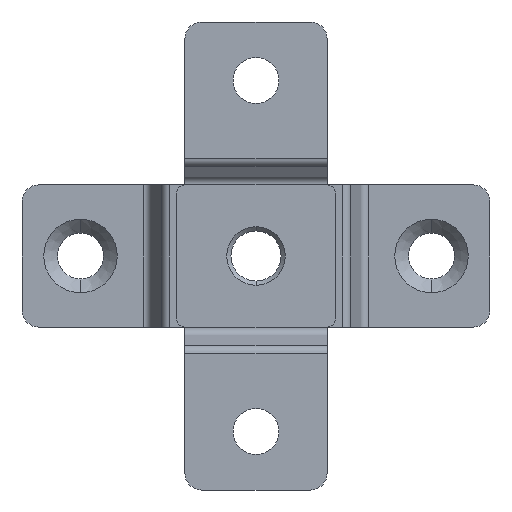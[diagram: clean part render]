
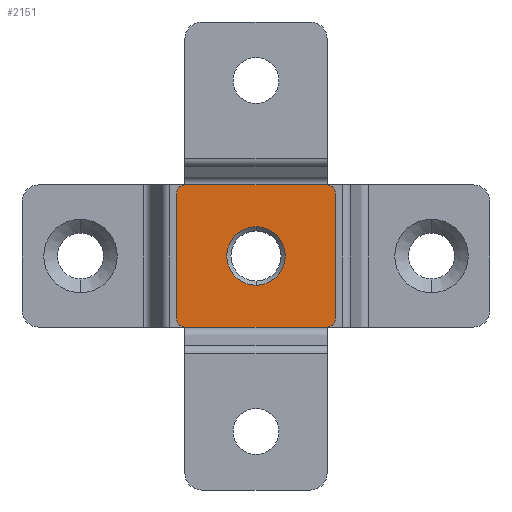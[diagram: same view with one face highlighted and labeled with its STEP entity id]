
A CAD part, front view. The second image highlights one B-rep face of the part: STEP entity #2151.
In plain terms, the highlighted planar face has unit normal (0, -1, 0) as drawn and (0, 1, 0) by its records, which use the part's own axes.
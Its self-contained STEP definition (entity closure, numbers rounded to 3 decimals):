
#43 = CARTESIAN_POINT ( 'NONE',  ( 0., 12., -3.5 ) ) ;
#53 = VECTOR ( 'NONE', #1442, 1000. ) ;
#136 = VERTEX_POINT ( 'NONE', #299 ) ;
#225 = CIRCLE ( 'NONE', #2777, 3.5 ) ;
#289 = LINE ( 'NONE', #2758, #2835 ) ;
#299 = CARTESIAN_POINT ( 'NONE',  ( 8.5, 12., -8.5 ) ) ;
#325 = DIRECTION ( 'NONE',  ( 0., 1., 0. ) ) ;
#332 = AXIS2_PLACEMENT_3D ( 'NONE', #2566, #3299, #2533 ) ;
#367 = EDGE_CURVE ( 'NONE', #1264, #1465, #2709, .T. ) ;
#578 = CIRCLE ( 'NONE', #1896, 1. ) ;
#591 = DIRECTION ( 'NONE',  ( 0., 0., 1. ) ) ;
#611 = EDGE_CURVE ( 'NONE', #1215, #136, #1778, .T. ) ;
#620 = PLANE ( 'NONE',  #3560 ) ;
#642 = VERTEX_POINT ( 'NONE', #2196 ) ;
#662 = EDGE_CURVE ( 'NONE', #642, #2515, #2304, .T. ) ;
#682 = ORIENTED_EDGE ( 'NONE', *, *, #1228, .T. ) ;
#826 = DIRECTION ( 'NONE',  ( 0., 0., 1. ) ) ;
#888 = CARTESIAN_POINT ( 'NONE',  ( 0., 12., 0. ) ) ;
#1033 = EDGE_LOOP ( 'NONE', ( #1742, #1321, #1789, #1059, #2740, #682, #1337, #3485 ) ) ;
#1042 = DIRECTION ( 'NONE',  ( 0., 0., 1. ) ) ;
#1045 = ORIENTED_EDGE ( 'NONE', *, *, #1516, .T. ) ;
#1048 = VERTEX_POINT ( 'NONE', #2460 ) ;
#1059 = ORIENTED_EDGE ( 'NONE', *, *, #611, .T. ) ;
#1215 = VERTEX_POINT ( 'NONE', #1720 ) ;
#1223 = CARTESIAN_POINT ( 'NONE',  ( 9.5, 12., 7.5 ) ) ;
#1228 = EDGE_CURVE ( 'NONE', #2973, #1048, #578, .T. ) ;
#1245 = CIRCLE ( 'NONE', #3499, 1. ) ;
#1264 = VERTEX_POINT ( 'NONE', #1820 ) ;
#1321 = ORIENTED_EDGE ( 'NONE', *, *, #367, .T. ) ;
#1337 = ORIENTED_EDGE ( 'NONE', *, *, #1744, .F. ) ;
#1346 = FACE_BOUND ( 'NONE', #2803, .T. ) ;
#1357 = CARTESIAN_POINT ( 'NONE',  ( -9.5, 12., 7.5 ) ) ;
#1403 = FACE_OUTER_BOUND ( 'NONE', #1033, .T. ) ;
#1442 = DIRECTION ( 'NONE',  ( 0., 0., -1. ) ) ;
#1455 = DIRECTION ( 'NONE',  ( 0., 1., 0. ) ) ;
#1465 = VERTEX_POINT ( 'NONE', #1223 ) ;
#1480 = LINE ( 'NONE', #2290, #3553 ) ;
#1516 = EDGE_CURVE ( 'NONE', #2515, #642, #225, .T. ) ;
#1596 = VERTEX_POINT ( 'NONE', #2235 ) ;
#1598 = LINE ( 'NONE', #2650, #2548 ) ;
#1720 = CARTESIAN_POINT ( 'NONE',  ( 9.5, 12., -7.5 ) ) ;
#1742 = ORIENTED_EDGE ( 'NONE', *, *, #2695, .T. ) ;
#1744 = EDGE_CURVE ( 'NONE', #3477, #1048, #1997, .T. ) ;
#1778 = CIRCLE ( 'NONE', #2647, 1. ) ;
#1789 = ORIENTED_EDGE ( 'NONE', *, *, #1914, .T. ) ;
#1809 = DIRECTION ( 'NONE',  ( 0., 0., 1. ) ) ;
#1820 = CARTESIAN_POINT ( 'NONE',  ( 8.5, 12., 8.5 ) ) ;
#1896 = AXIS2_PLACEMENT_3D ( 'NONE', #2612, #1455, #2564 ) ;
#1914 = EDGE_CURVE ( 'NONE', #1465, #1215, #1598, .T. ) ;
#1977 = CARTESIAN_POINT ( 'NONE',  ( 8.5, 12., -7.5 ) ) ;
#1997 = LINE ( 'NONE', #3421, #53 ) ;
#2000 = ORIENTED_EDGE ( 'NONE', *, *, #662, .T. ) ;
#2092 = CARTESIAN_POINT ( 'NONE',  ( 0., 12., 0. ) ) ;
#2151 = ADVANCED_FACE ( 'NONE', ( #1346, #1403 ), #620, .T. ) ;
#2196 = CARTESIAN_POINT ( 'NONE',  ( 0., 12., 3.5 ) ) ;
#2235 = CARTESIAN_POINT ( 'NONE',  ( -8.5, 12., 8.5 ) ) ;
#2290 = CARTESIAN_POINT ( 'NONE',  ( -9.5, 12., 8.5 ) ) ;
#2304 = CIRCLE ( 'NONE', #332, 3.5 ) ;
#2357 = AXIS2_PLACEMENT_3D ( 'NONE', #3422, #3436, #1809 ) ;
#2404 = DIRECTION ( 'NONE',  ( 0., 0., -1. ) ) ;
#2460 = CARTESIAN_POINT ( 'NONE',  ( -9.5, 12., -7.5 ) ) ;
#2515 = VERTEX_POINT ( 'NONE', #43 ) ;
#2528 = EDGE_CURVE ( 'NONE', #3477, #1596, #1245, .T. ) ;
#2533 = DIRECTION ( 'NONE',  ( 0., 0., 1. ) ) ;
#2548 = VECTOR ( 'NONE', #2404, 1000. ) ;
#2564 = DIRECTION ( 'NONE',  ( 0., 0., 1. ) ) ;
#2566 = CARTESIAN_POINT ( 'NONE',  ( 0., 12., 0. ) ) ;
#2612 = CARTESIAN_POINT ( 'NONE',  ( -8.5, 12., -7.5 ) ) ;
#2647 = AXIS2_PLACEMENT_3D ( 'NONE', #1977, #325, #591 ) ;
#2650 = CARTESIAN_POINT ( 'NONE',  ( 9.5, 12., 8.5 ) ) ;
#2695 = EDGE_CURVE ( 'NONE', #1596, #1264, #1480, .T. ) ;
#2709 = CIRCLE ( 'NONE', #2357, 1. ) ;
#2740 = ORIENTED_EDGE ( 'NONE', *, *, #3393, .F. ) ;
#2758 = CARTESIAN_POINT ( 'NONE',  ( -9.5, 12., -8.5 ) ) ;
#2777 = AXIS2_PLACEMENT_3D ( 'NONE', #2092, #2949, #1042 ) ;
#2796 = DIRECTION ( 'NONE',  ( 0., 0., 1. ) ) ;
#2803 = EDGE_LOOP ( 'NONE', ( #2000, #1045 ) ) ;
#2835 = VECTOR ( 'NONE', #3063, 1000. ) ;
#2872 = DIRECTION ( 'NONE',  ( 1., 0., 0. ) ) ;
#2949 = DIRECTION ( 'NONE',  ( 0., -1., 0. ) ) ;
#2973 = VERTEX_POINT ( 'NONE', #3348 ) ;
#3054 = CARTESIAN_POINT ( 'NONE',  ( -8.5, 12., 7.5 ) ) ;
#3063 = DIRECTION ( 'NONE',  ( 1., 0., 0. ) ) ;
#3093 = DIRECTION ( 'NONE',  ( 0., 1., 0. ) ) ;
#3299 = DIRECTION ( 'NONE',  ( 0., -1., 0. ) ) ;
#3348 = CARTESIAN_POINT ( 'NONE',  ( -8.5, 12., -8.5 ) ) ;
#3393 = EDGE_CURVE ( 'NONE', #2973, #136, #289, .T. ) ;
#3421 = CARTESIAN_POINT ( 'NONE',  ( -9.5, 12., 8.5 ) ) ;
#3422 = CARTESIAN_POINT ( 'NONE',  ( 8.5, 12., 7.5 ) ) ;
#3436 = DIRECTION ( 'NONE',  ( 0., 1., 0. ) ) ;
#3477 = VERTEX_POINT ( 'NONE', #1357 ) ;
#3485 = ORIENTED_EDGE ( 'NONE', *, *, #2528, .T. ) ;
#3499 = AXIS2_PLACEMENT_3D ( 'NONE', #3054, #3579, #826 ) ;
#3553 = VECTOR ( 'NONE', #2872, 1000. ) ;
#3560 = AXIS2_PLACEMENT_3D ( 'NONE', #888, #3093, #2796 ) ;
#3579 = DIRECTION ( 'NONE',  ( 0., 1., 0. ) ) ;
